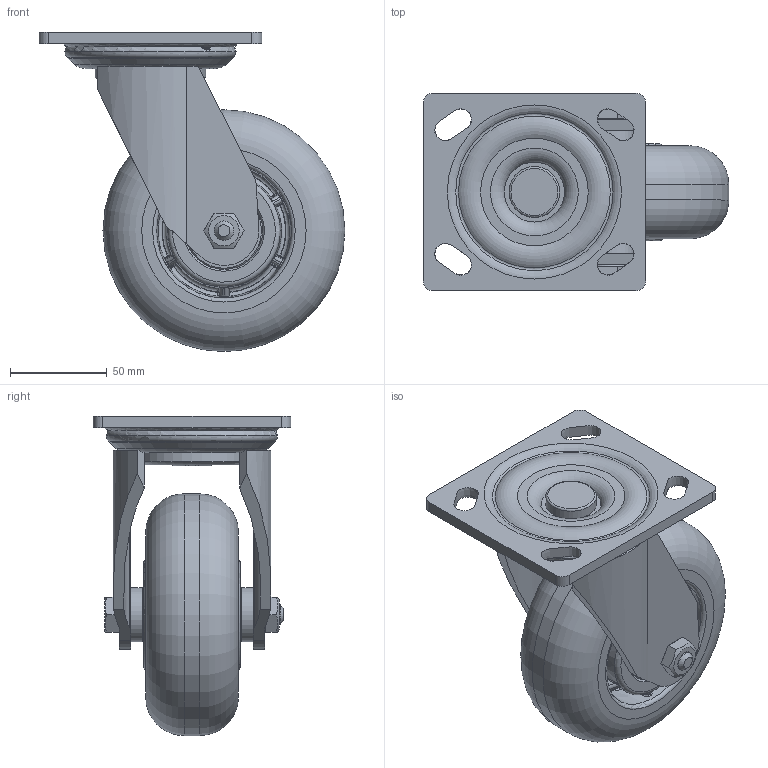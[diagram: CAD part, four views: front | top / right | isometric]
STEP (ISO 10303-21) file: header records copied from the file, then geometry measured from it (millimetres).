
FILE_DESCRIPTION(/* description */ (''),/* implementation_level */ '2;1');
FILE_NAME(/* name */ '35D04_5_F.stp',/* time_stamp */ '2022-10-17T13:53:53+08:00',/* author */ (''),/* organization */ (''),/* preprocessor_version */ 'ST-DEVELOPER v14',/* originating_system */ 'SIEMENS PLM Software NX 8.0',/* authorisation */ '');
FILE_SCHEMA (('AUTOMOTIVE_DESIGN { 1 0 10303 214 3 1 1 1 }'));
Length unit declared in the file: millimetre
Products named in the file (1): 35D04_5_F
Bounding box: 158 x 102 x 165 mm (x, y, z)
Surface area: 147125.2 mm2 (no closed solid volume)
Topology: 0 solids, 1 shells, 910 faces, 2409 edges, 1511 vertices
Faces by surface type: plane 397, cylinder 195, bspline 193, torus 51, cone 43, sphere 25, extrusion 6
Full cylindrical faces by diameter (mm): 10.104 x2, 12 x1, 12.2 x2, 16.2 x1, 16.3 x1, 17 x2, 20.5 x2, 22.276 x1, 24.188 x4, 26.256 x1, 28 x2, 32.812 x2, 39.85 x2, 40 x3, 57 x1, 125 x1
Entity records: 32220 total; most frequent: CARTESIAN_POINT 12001, ORIENTED_EDGE 4414, DIRECTION 3854, EDGE_CURVE 2207, AXIS2_PLACEMENT_3D 1667, VERTEX_POINT 1425, EDGE_LOOP 1138, CIRCLE 932
